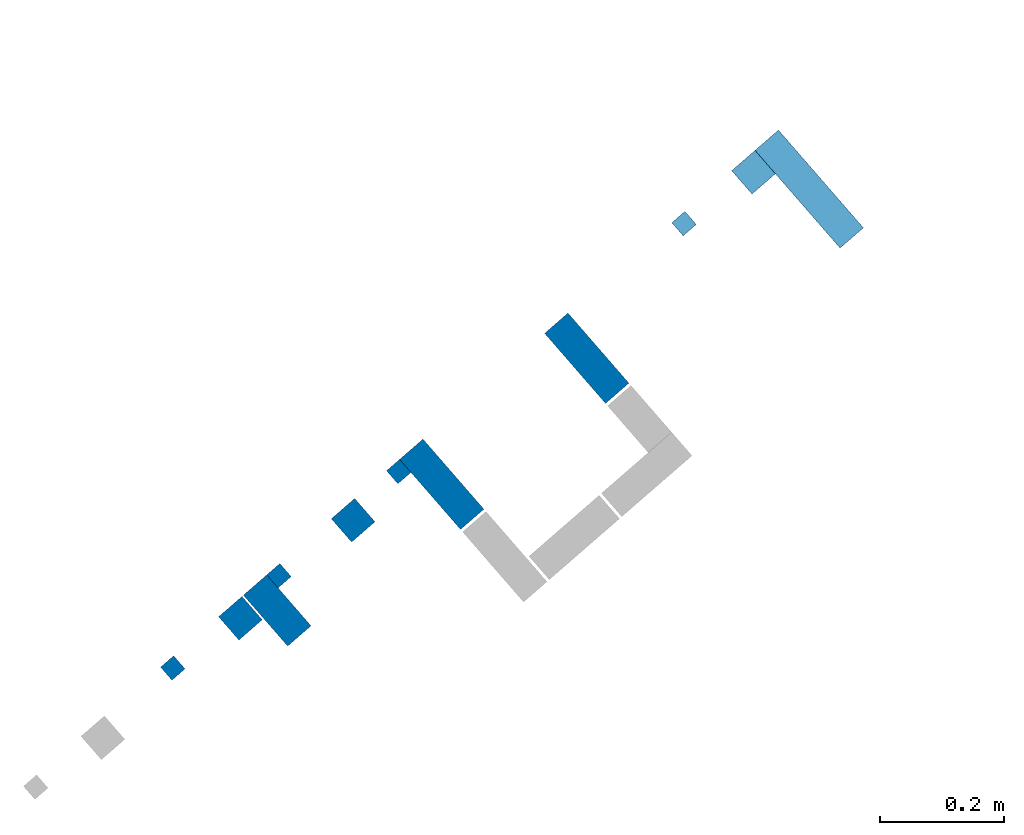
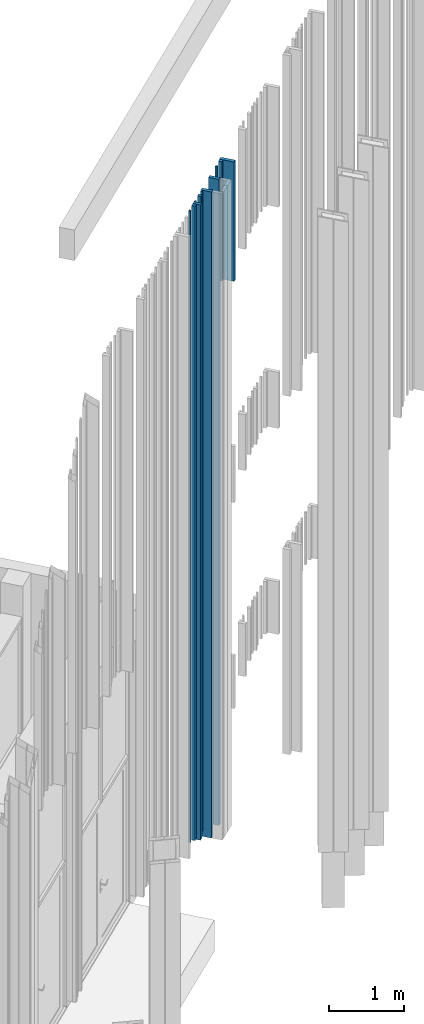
# One storey, part 211 of 390: 11 walls.
"""IFC2X3 building model written with IfcOpenShell, lengths in millimetres."""

from ifc_helpers import new_model, entity, si_unit, converted_unit, derived_unit, money_unit, direction, frame, origin_with_axes, place, context, subcontext, project, spatial, faceted_brep, material, type_object, element, save


model = new_model("IFC2X3")

# Units and contexts
model_context = context("Model", 3, precision=1e-05, world=origin_with_axes(), true_north=direction((0.0, 1.0)))
body_context = subcontext(model_context, "Body", "Model", "MODEL_VIEW")
ifc_project = project(units=[si_unit("LENGTHUNIT", "METRE", prefix="MILLI"), si_unit("AREAUNIT", "SQUARE_METRE"), si_unit("VOLUMEUNIT", "CUBIC_METRE"), converted_unit("PLANEANGLEUNIT", "DEGREE", entity("IfcPlaneAngleMeasure", 0.0174532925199), si_unit("PLANEANGLEUNIT", "RADIAN"), dimensions=[0, 0, 0, 0, 0, 0, 0]), si_unit("SOLIDANGLEUNIT", "STERADIAN"), money_unit("EUR"), converted_unit("TIMEUNIT", "Year", entity("IfcTimeMeasure", 31556926.0), si_unit("TIMEUNIT", "SECOND"), dimensions=[0, 0, 1, 0, 0, 0, 0]), si_unit("MASSUNIT", "GRAM", prefix="KILO"), si_unit("THERMODYNAMICTEMPERATUREUNIT", "DEGREE_CELSIUS"), si_unit("LUMINOUSINTENSITYUNIT", "LUMEN"), si_unit("ENERGYUNIT", "JOULE", prefix="MEGA"), derived_unit("THERMALCONDUCTANCEUNIT", [(si_unit("POWERUNIT", "WATT"), 1), (si_unit("LENGTHUNIT", "METRE"), -1), (si_unit("THERMODYNAMICTEMPERATUREUNIT", "KELVIN"), -1)]), derived_unit("SPECIFICHEATCAPACITYUNIT", [(si_unit("ENERGYUNIT", "JOULE"), 1), (si_unit("MASSUNIT", "GRAM", prefix="KILO"), -1), (si_unit("THERMODYNAMICTEMPERATUREUNIT", "KELVIN"), -1)]), derived_unit("MASSDENSITYUNIT", [(si_unit("MASSUNIT", "GRAM", prefix="KILO"), 1), (si_unit("VOLUMEUNIT", "CUBIC_METRE"), -1)])], contexts=[model_context])

# Site, building, storey
site_placement = place(None, origin_with_axes())
site = spatial("IfcSite", under=ifc_project, at=site_placement, Name="Site", CompositionType="ELEMENT")
building_placement = place(site_placement, origin_with_axes())
building = spatial("IfcBuilding", under=site, at=building_placement, Name="Building", CompositionType="ELEMENT")
storey_placement = place(building_placement, origin_with_axes())
storey = spatial("IfcBuildingStorey", under=building, at=storey_placement, Name="1 korrus", CompositionType="ELEMENT", Elevation=0.0)

# Walls
ifc_material = material(Name="Site specified")
wall_type_1 = type_object("IfcWallType", Name="Puitfassaadi ribistik", PredefinedType="NOTDEFINED")
wall_1_placement = place(storey_placement, frame((150391.329315, 75324.7168255, -512.539696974), z_axis=(0.0, 0.0, 1.0), x_axis=(-0.754709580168, -0.656059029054, 0.0)))
element("IfcWall", 1, at=wall_1_placement, inside=storey, type_object=wall_type_1, material=ifc_material, Name="Site specified", context=body_context, shape_type="Brep", body=[
    faceted_brep([(-25.0, -54.5, 10377.539697), (-25.0, -54.5, 0.0), (25.0, -54.5, 0.0), (25.0, -54.5, 10377.539697), (-25.0, 54.5, 10377.539697), (-25.0, 54.5, 0.0), (25.0, 54.5, 0.0), (25.0, 54.5, 10377.539697)], [[[0, 1, 2, 3]], [[4, 5, 1, 0]], [[2, 1, 5, 6]], [[3, 2, 6, 7]], [[4, 0, 3, 7]], [[7, 6, 5, 4]]]),
])
wall_2_placement = place(storey_placement, frame((150587.39836, 75548.8200723, -594.813387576), z_axis=(0.0, 0.0, 1.0), x_axis=(-0.754709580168, -0.656059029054, 0.0)))
element("IfcWall", 2, at=wall_2_placement, inside=storey, type_object=wall_type_1, material=ifc_material, Name="Site specified", context=body_context, shape_type="Brep", body=[
    faceted_brep([(-14.0, -14.0, 10459.8133876), (-14.0, -14.0, 0.0), (14.0, -14.0, 0.0), (14.0, -14.0, 10459.8133876), (-14.0, 14.0, 10459.8133876), (-14.0, 14.0, 0.0), (14.0, 14.0, 0.0), (14.0, 14.0, 10459.8133876)], [[[0, 1, 2, 3]], [[4, 5, 1, 0]], [[2, 1, 5, 6]], [[3, 2, 6, 7]], [[4, 0, 3, 7]], [[7, 6, 5, 4]]]),
])
wall_3_placement = place(storey_placement, frame((150394.192597, 75380.8688656, -520.651183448), z_axis=(0.0, 0.0, 1.0), x_axis=(-0.754709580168, -0.656059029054, 0.0)))
element("IfcWall", 3, at=wall_3_placement, inside=storey, type_object=wall_type_1, material=ifc_material, Name="Site specified", context=body_context, shape_type="Brep", body=[
    faceted_brep([(-14.0, -14.0, 10385.6511834), (-14.0, -14.0, 0.0), (14.0, -14.0, 0.0), (14.0, -14.0, 10385.6511834), (-14.0, 14.0, 10385.6511834), (-14.0, 14.0, 0.0), (14.0, 14.0, 0.0), (14.0, 14.0, 10385.6511834)], [[[0, 1, 2, 3]], [[4, 5, 1, 0]], [[2, 1, 5, 6]], [[3, 2, 6, 7]], [[4, 0, 3, 7]], [[7, 6, 5, 4]]]),
])
wall_4_placement = place(storey_placement, frame((151159.896437, 76031.9099161, 7915.0), z_axis=(0.0, 0.0, 1.0), x_axis=(-0.754709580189, -0.65605902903, 0.0)))
element("IfcWall", 4, at=wall_4_placement, inside=storey, type_object=wall_type_1, material=ifc_material, Name="Site specified", context=body_context, shape_type="Brep", body=[
    faceted_brep([(-25.0, -25.0, 1950.0), (-25.0, -25.0, 0.0), (25.0, -25.0, 0.0), (25.0, -25.0, 1950.0), (-25.0, 25.0, 1950.0), (-25.0, 25.0, 0.0), (25.0, 25.0, 0.0), (25.0, 25.0, 1950.0)], [[[0, 1, 2, 3]], [[4, 5, 1, 0]], [[2, 1, 5, 6]], [[3, 2, 6, 7]], [[4, 0, 3, 7]], [[7, 6, 5, 4]]]),
])
wall_5_placement = place(storey_placement, frame((151249.788609, 76004.7134559, 7915.0), z_axis=(0.0, 0.0, 1.0), x_axis=(-0.754709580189, -0.65605902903, 0.0)))
element("IfcWall", 5, at=wall_5_placement, inside=storey, type_object=wall_type_1, material=ifc_material, Name="Site specified", context=body_context, shape_type="Brep", body=[
    faceted_brep([(-25.0, -104.5, 1950.0), (-25.0, -104.5, 0.0), (25.0, -104.5, 0.0), (25.0, -104.5, 1950.0), (-25.0, 104.5, 1950.0), (-25.0, 104.5, 0.0), (25.0, 104.5, 0.0), (25.0, 104.5, 1950.0)], [[[0, 1, 2, 3]], [[4, 5, 1, 0]], [[2, 1, 5, 6]], [[3, 2, 6, 7]], [[4, 0, 3, 7]], [[7, 6, 5, 4]]]),
])
wall_6_placement = place(storey_placement, frame((151047.775156, 75949.0195164, 7915.0), z_axis=(0.0, 0.0, 1.0), x_axis=(-0.754709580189, -0.65605902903, 0.0)))
element("IfcWall", 6, at=wall_6_placement, inside=storey, type_object=wall_type_1, material=ifc_material, Name="Site specified", context=body_context, shape_type="Brep", body=[
    faceted_brep([(-14.0, -14.0, 1950.0), (-14.0, -14.0, 0.0), (14.0, -14.0, 0.0), (14.0, -14.0, 1950.0), (-14.0, 14.0, 1950.0), (-14.0, 14.0, 0.0), (14.0, 14.0, 0.0), (14.0, 14.0, 1950.0)], [[[0, 1, 2, 3]], [[4, 5, 1, 0]], [[2, 1, 5, 6]], [[3, 2, 6, 7]], [[4, 0, 3, 7]], [[7, 6, 5, 4]]]),
])
wall_7_placement = place(storey_placement, frame((150513.860974, 75470.3198556, -567.002534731), z_axis=(0.0, 0.0, 1.0), x_axis=(-0.754709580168, -0.656059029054, 0.0)))
element("IfcWall", 7, at=wall_7_placement, inside=storey, type_object=wall_type_1, material=ifc_material, Name="Site specified", context=body_context, shape_type="Brep", body=[
    faceted_brep([(-25.0, -25.0, 10432.0025347), (-25.0, -25.0, 0.0), (25.0, -25.0, 0.0), (25.0, -25.0, 10432.0025347), (-25.0, 25.0, 10432.0025347), (-25.0, 25.0, 0.0), (25.0, 25.0, 0.0), (25.0, 25.0, 10432.0025347)], [[[0, 1, 2, 3]], [[4, 5, 1, 0]], [[2, 1, 5, 6]], [[3, 2, 6, 7]], [[4, 0, 3, 7]], [[7, 6, 5, 4]]]),
])
wall_8_placement = place(storey_placement, frame((150222.873523, 75231.943466, -454.890203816), z_axis=(0.0, 0.0, 1.0), x_axis=(-0.754709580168, -0.656059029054, 0.0)))
element("IfcWall", 8, at=wall_8_placement, inside=storey, type_object=wall_type_1, material=ifc_material, Name="Site specified", context=body_context, shape_type="Brep", body=[
    faceted_brep([(-14.0, -14.0, 10319.8902038), (-14.0, -14.0, 0.0), (14.0, -14.0, 0.0), (14.0, -14.0, 10319.8902038), (-14.0, 14.0, 10319.8902038), (-14.0, 14.0, 0.0), (14.0, 14.0, 0.0), (14.0, 14.0, 10319.8902038)], [[[0, 1, 2, 3]], [[4, 5, 1, 0]], [[2, 1, 5, 6]], [[3, 2, 6, 7]], [[4, 0, 3, 7]], [[7, 6, 5, 4]]]),
])
wall_9_placement = place(storey_placement, frame((150331.975965, 75312.2096296, -497.185811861), z_axis=(0.0, 0.0, 1.0), x_axis=(-0.754709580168, -0.656059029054, 0.0)))
element("IfcWall", 9, at=wall_9_placement, inside=storey, type_object=wall_type_1, material=ifc_material, Name="Site specified", context=body_context, shape_type="Brep", body=[
    faceted_brep([(-25.0, -25.0, 10362.1858119), (-25.0, -25.0, 0.0), (25.0, -25.0, 0.0), (25.0, -25.0, 10362.1858119), (-25.0, 25.0, 10362.1858119), (-25.0, 25.0, 0.0), (25.0, 25.0, 0.0), (25.0, 25.0, 10362.1858119)], [[[0, 1, 2, 3]], [[4, 5, 1, 0]], [[2, 1, 5, 6]], [[3, 2, 6, 7]], [[4, 0, 3, 7]], [[7, 6, 5, 4]]]),
])
wall_type_2 = type_object("IfcWallType", Name="Puitfassaadi ribisik", PredefinedType="NOTDEFINED")
wall_10_placement = place(storey_placement, frame((150890.811583, 75731.7474627, -687.977064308), z_axis=(0.0, 0.0, 1.0), x_axis=(-0.754709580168, -0.656059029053, 0.0)))
element("IfcWall", 10, at=wall_10_placement, inside=storey, type_object=wall_type_2, material=ifc_material, Name="Site specified", context=body_context, shape_type="Brep", body=[
    faceted_brep([(25.0, -75.0, 10552.9770592), (-25.0, -75.0, 10552.9770592), (-25.0, -75.0, 0.0), (25.0, -75.0, 0.0), (25.0, 75.0, 10552.9770592), (-25.0, 75.0, 10552.9770592), (-25.0, 75.0, 0.0), (25.0, 75.0, 0.0)], [[[0, 1, 2, 3]], [[4, 5, 1, 0]], [[1, 5, 6, 2]], [[7, 3, 2, 6]], [[4, 0, 3, 7]], [[5, 4, 7, 6]]]),
])
wall_11_placement = place(storey_placement, frame((150656.851634, 75528.3690901, -687.977064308), z_axis=(0.0, 0.0, 1.0), x_axis=(-0.754709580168, -0.656059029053, 0.0)))
element("IfcWall", 11, at=wall_11_placement, inside=storey, type_object=wall_type_2, material=ifc_material, Name="Site specified", context=body_context, shape_type="Brep", body=[
    faceted_brep([(-25.0, -75.0, 10552.9770592), (-25.0, -75.0, 0.0), (25.0, -75.0, 0.0), (25.0, -75.0, 10552.9770592), (-25.0, 75.0, 10552.9770592), (-25.0, 75.0, 0.0), (25.0, 75.0, 0.0), (25.0, 75.0, 10552.9770592)], [[[0, 1, 2, 3]], [[4, 5, 1, 0]], [[2, 1, 5, 6]], [[3, 2, 6, 7]], [[4, 0, 3, 7]], [[7, 6, 5, 4]]]),
])

save(model, "model.ifc")
